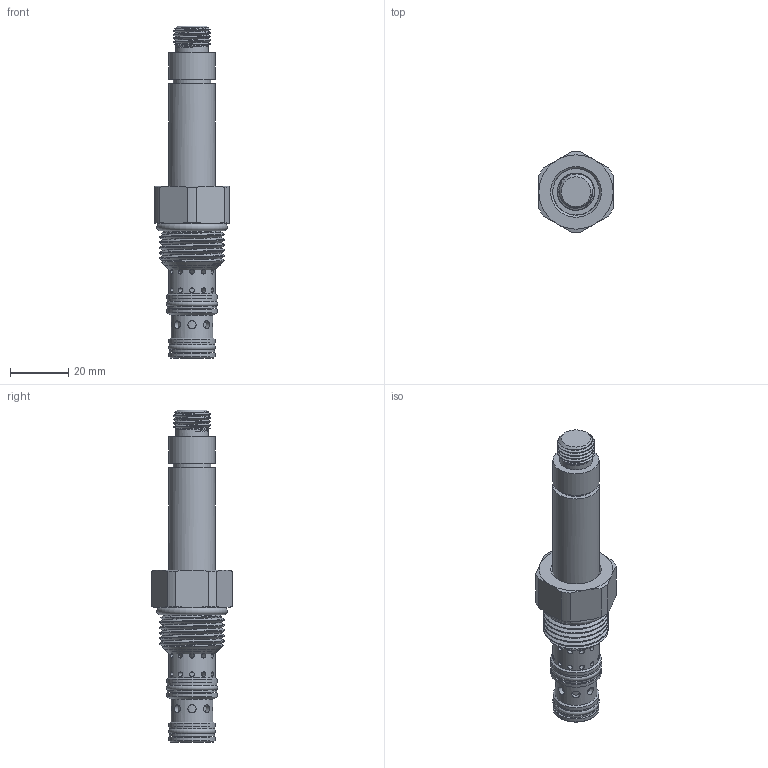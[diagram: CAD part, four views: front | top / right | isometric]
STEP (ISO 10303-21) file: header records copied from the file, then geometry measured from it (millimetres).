
FILE_DESCRIPTION(/* description */ ('','CAx-IF Rec.Pracs.---Representation and Presentation of Product Manufacturing Information (PMI)---4.0---2014-10-13'),/* implementation_level */ '2;1');
FILE_NAME(/* name */ 'P:\EARS\EAR16xx\EAR1683 - catalog pages changes\Group4a_4_Distributions_2_1_23\RTeck Agency_Tom_UNSENT\_step files\HDFS3H00.stp',/* time_stamp */ '2023-02-02T15:53:49-06:00',/* author */ ('Michael'),/* organization */ (''),/* preprocessor_version */ 'ST-DEVELOPER v17.2',/* originating_system */ 'Autodesk Inventor 2019',/* authorisation */ '');
FILE_SCHEMA (('AP242_MANAGED_MODEL_BASED_3D_ENGINEERING_MIM_LF { 1 0 10303 442 1 1 4 }'));
Length unit declared in the file: inch
Products named in the file (1): HDFS3H00
Bounding box: 25.4 x 27.67 x 113.54 mm (x, y, z)
Volume: 29167.9 mm3; surface area: 10500.4 mm2
Topology: 1 solids, 2 shells, 191 faces, 410 edges, 267 vertices
Faces by surface type: cylinder 107, plane 35, cone 28, bspline 11, torus 10
Full cylindrical faces by diameter (mm): 1.6 x24, 2.794 x8, 11.1 x1, 11.11 x1, 11.176 x1, 12.7 x3, 12.827 x1, 12.992 x3, 14.275 x1, 14.592 x4, 15.392 x2, 15.773 x2, 15.85 x1, 15.875 x2, 16.967 x2, 17.323 x1, 17.374 x2, 19.621 x2, 22.225 x4
Entity records: 12521 total; most frequent: CARTESIAN_POINT 8332, ORIENTED_EDGE 816, DIRECTION 769, EDGE_CURVE 408, AXIS2_PLACEMENT_3D 336, VERTEX_POINT 266, EDGE_LOOP 245, FACE_OUTER_BOUND 191
